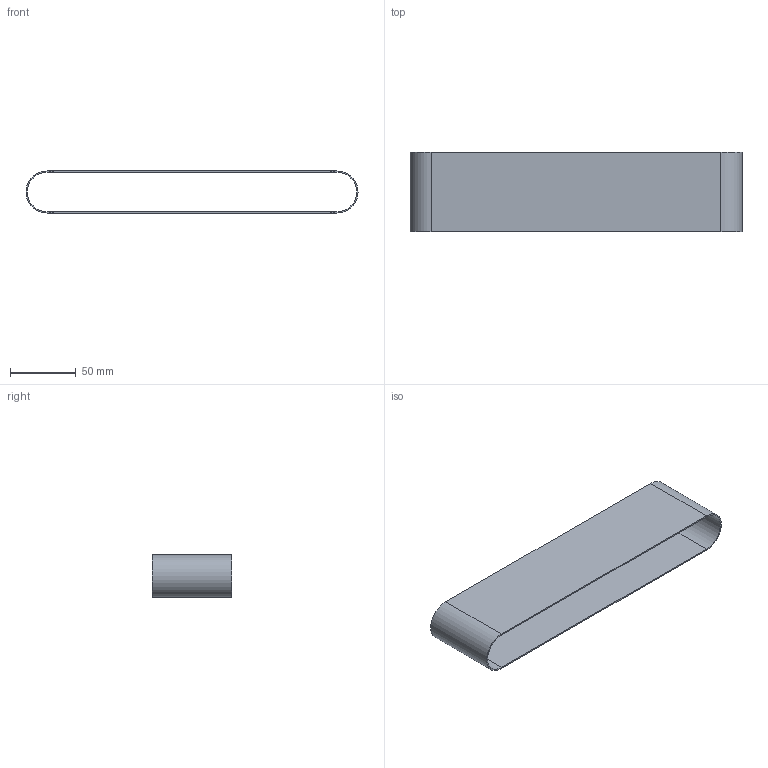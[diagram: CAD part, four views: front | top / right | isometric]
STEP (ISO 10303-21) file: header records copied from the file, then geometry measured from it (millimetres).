
FILE_DESCRIPTION(('Open CASCADE Model'),'2;1');
FILE_NAME('Open CASCADE Shape Model','2026-10-04T02:31:44',('Author'),( 'Open CASCADE'),'Open CASCADE STEP processor 8.0','Open CASCADE 8.0' ,'Unknown');
FILE_SCHEMA(('AUTOMOTIVE_DESIGN { 1 0 10303 214 1 1 1 1 }'));
Length unit declared in the file: millimetre
Products named in the file (1): Open CASCADE STEP translator 8.0 302
Bounding box: 252 x 60 x 32 mm (x, y, z)
Volume: 32243.4 mm3; surface area: 65561.5 mm2
Topology: 1 solids, 1 shells, 24 faces, 48 edges, 24 vertices
Faces by surface type: plane 20, cylinder 4
Entity records: 1234 total; most frequent: DIRECTION 210, CARTESIAN_POINT 193, LINE 104, VECTOR 104, ORIENTED_EDGE 96, PCURVE 96, DEFINITIONAL_REPRESENTATION 96, EDGE_CURVE 48
